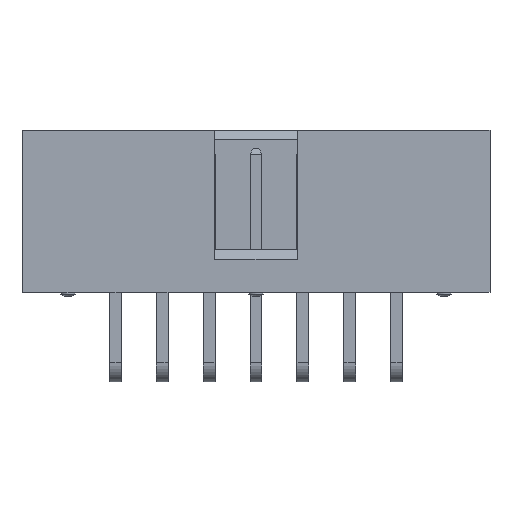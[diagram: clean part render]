
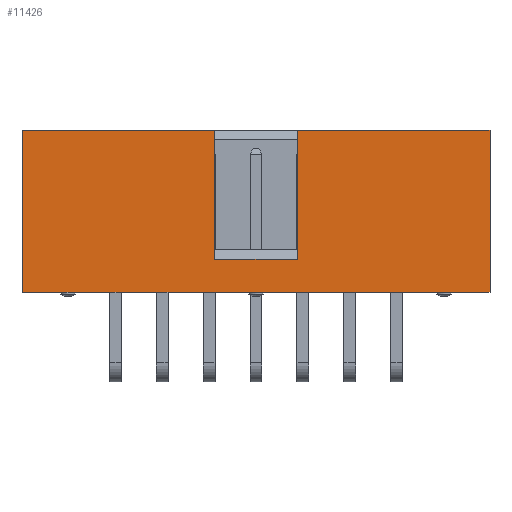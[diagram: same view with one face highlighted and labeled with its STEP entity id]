
A CAD part, front view. The second image highlights one B-rep face of the part: STEP entity #11426.
In plain terms, the highlighted planar face has unit normal (0, -1, 0).
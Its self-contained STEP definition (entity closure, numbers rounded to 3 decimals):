
#36 = VECTOR ( 'NONE', #11435, 1000. ) ;
#84 = DIRECTION ( 'NONE',  ( 0., 0., 1. ) ) ;
#101 = EDGE_LOOP ( 'NONE', ( #11850, #8241, #579, #5482, #9616, #3242, #8161, #3668 ) ) ;
#122 = DIRECTION ( 'NONE',  ( 0., 0., -1. ) ) ;
#249 = LINE ( 'NONE', #6961, #6711 ) ;
#579 = ORIENTED_EDGE ( 'NONE', *, *, #9636, .F. ) ;
#739 = VECTOR ( 'NONE', #122, 1000. ) ;
#740 = CARTESIAN_POINT ( 'NONE',  ( 13.265, 0.641, 2.65 ) ) ;
#807 = DIRECTION ( 'NONE',  ( -1., 0., 0. ) ) ;
#921 = CARTESIAN_POINT ( 'NONE',  ( 13.265, 0.641, 2.85 ) ) ;
#1820 = VERTEX_POINT ( 'NONE', #740 ) ;
#1827 = CARTESIAN_POINT ( 'NONE',  ( -13.095, 0.641, 2.85 ) ) ;
#2222 = AXIS2_PLACEMENT_3D ( 'NONE', #1827, #3663, #11095 ) ;
#2239 = VECTOR ( 'NONE', #9637, 1000. ) ;
#2507 = CARTESIAN_POINT ( 'NONE',  ( -1.675, 0.641, -4.35 ) ) ;
#2581 = LINE ( 'NONE', #10033, #10136 ) ;
#2860 = VECTOR ( 'NONE', #10495, 1000. ) ;
#3227 = CARTESIAN_POINT ( 'NONE',  ( -1.675, 0.641, 2.85 ) ) ;
#3242 = ORIENTED_EDGE ( 'NONE', *, *, #3818, .F. ) ;
#3663 = DIRECTION ( 'NONE',  ( 0., 1., 0. ) ) ;
#3668 = ORIENTED_EDGE ( 'NONE', *, *, #11564, .T. ) ;
#3765 = VERTEX_POINT ( 'NONE', #4150 ) ;
#3818 = EDGE_CURVE ( 'NONE', #3765, #7580, #6829, .T. ) ;
#3974 = CARTESIAN_POINT ( 'NONE',  ( -13.095, 0.641, -6.15 ) ) ;
#4150 = CARTESIAN_POINT ( 'NONE',  ( -1.675, 0.641, 2.65 ) ) ;
#4692 = VERTEX_POINT ( 'NONE', #9893 ) ;
#5482 = ORIENTED_EDGE ( 'NONE', *, *, #8046, .F. ) ;
#5496 = EDGE_CURVE ( 'NONE', #1820, #6187, #8555, .T. ) ;
#5938 = EDGE_CURVE ( 'NONE', #4692, #6187, #8776, .T. ) ;
#6123 = CARTESIAN_POINT ( 'NONE',  ( 2.825, 0.641, -4.35 ) ) ;
#6187 = VERTEX_POINT ( 'NONE', #7423 ) ;
#6404 = LINE ( 'NONE', #8306, #10802 ) ;
#6409 = VERTEX_POINT ( 'NONE', #11771 ) ;
#6711 = VECTOR ( 'NONE', #11427, 1000. ) ;
#6829 = LINE ( 'NONE', #3227, #2860 ) ;
#6961 = CARTESIAN_POINT ( 'NONE',  ( -12.115, 0.641, 2.85 ) ) ;
#7073 = VERTEX_POINT ( 'NONE', #6123 ) ;
#7188 = EDGE_CURVE ( 'NONE', #7073, #7580, #2581, .T. ) ;
#7370 = FACE_OUTER_BOUND ( 'NONE', #101, .T. ) ;
#7423 = CARTESIAN_POINT ( 'NONE',  ( 13.265, 0.641, -6.15 ) ) ;
#7580 = VERTEX_POINT ( 'NONE', #2507 ) ;
#7600 = LINE ( 'NONE', #9495, #8404 ) ;
#7655 = LINE ( 'NONE', #7717, #36 ) ;
#7717 = CARTESIAN_POINT ( 'NONE',  ( -13.095, 0.641, 2.65 ) ) ;
#8046 = EDGE_CURVE ( 'NONE', #7073, #6409, #7600, .T. ) ;
#8161 = ORIENTED_EDGE ( 'NONE', *, *, #11805, .F. ) ;
#8241 = ORIENTED_EDGE ( 'NONE', *, *, #5496, .F. ) ;
#8296 = PLANE ( 'NONE',  #2222 ) ;
#8306 = CARTESIAN_POINT ( 'NONE',  ( -13.095, 0.641, 2.65 ) ) ;
#8404 = VECTOR ( 'NONE', #84, 1000. ) ;
#8555 = LINE ( 'NONE', #921, #739 ) ;
#8776 = LINE ( 'NONE', #3974, #2239 ) ;
#8935 = VERTEX_POINT ( 'NONE', #10623 ) ;
#9228 = DIRECTION ( 'NONE',  ( 1., 0., 0. ) ) ;
#9495 = CARTESIAN_POINT ( 'NONE',  ( 2.825, 0.641, 2.85 ) ) ;
#9616 = ORIENTED_EDGE ( 'NONE', *, *, #7188, .T. ) ;
#9636 = EDGE_CURVE ( 'NONE', #6409, #1820, #7655, .T. ) ;
#9637 = DIRECTION ( 'NONE',  ( 1., 0., 0. ) ) ;
#9893 = CARTESIAN_POINT ( 'NONE',  ( -12.115, 0.641, -6.15 ) ) ;
#10033 = CARTESIAN_POINT ( 'NONE',  ( -1.425, 0.641, -4.35 ) ) ;
#10136 = VECTOR ( 'NONE', #807, 1000. ) ;
#10495 = DIRECTION ( 'NONE',  ( 0., 0., -1. ) ) ;
#10623 = CARTESIAN_POINT ( 'NONE',  ( -12.115, 0.641, 2.65 ) ) ;
#10802 = VECTOR ( 'NONE', #9228, 1000. ) ;
#11095 = DIRECTION ( 'NONE',  ( 1., 0., 0. ) ) ;
#11426 = ADVANCED_FACE ( 'NONE', ( #7370 ), #8296, .F. ) ;
#11427 = DIRECTION ( 'NONE',  ( 0., 0., -1. ) ) ;
#11435 = DIRECTION ( 'NONE',  ( 1., 0., 0. ) ) ;
#11564 = EDGE_CURVE ( 'NONE', #8935, #4692, #249, .T. ) ;
#11771 = CARTESIAN_POINT ( 'NONE',  ( 2.825, 0.641, 2.65 ) ) ;
#11805 = EDGE_CURVE ( 'NONE', #8935, #3765, #6404, .T. ) ;
#11850 = ORIENTED_EDGE ( 'NONE', *, *, #5938, .T. ) ;
